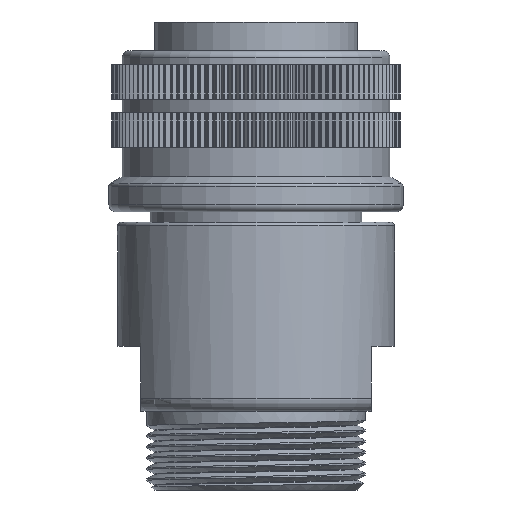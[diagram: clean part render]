
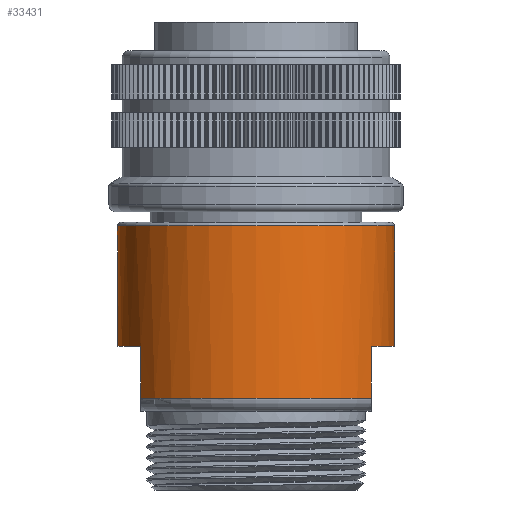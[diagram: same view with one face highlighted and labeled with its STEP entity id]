
A CAD part, front view. The second image highlights one B-rep face of the part: STEP entity #33431.
In plain terms, the highlighted cylindrical face has radius 16.05 mm (diameter 32.1 mm), a full revolution.
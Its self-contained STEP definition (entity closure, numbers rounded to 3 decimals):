
#271 = DIRECTION ( 'NONE',  ( 0., 0., 1. ) ) ;
#599 = VERTEX_POINT ( 'NONE', #22251 ) ;
#1651 = DIRECTION ( 'NONE',  ( -1., 0., 0. ) ) ;
#1714 = CARTESIAN_POINT ( 'NONE',  ( 16.05, 0., -23.62 ) ) ;
#2777 = CARTESIAN_POINT ( 'NONE',  ( 0., 16.05, -27.991 ) ) ;
#2875 = ORIENTED_EDGE ( 'NONE', *, *, #44910, .F. ) ;
#5743 = CARTESIAN_POINT ( 'NONE',  ( 13.365, 8.887, -37.59 ) ) ;
#7932 = ORIENTED_EDGE ( 'NONE', *, *, #57382, .T. ) ;
#8857 = EDGE_CURVE ( 'NONE', #71262, #90500, #52579, .T. ) ;
#9778 = CARTESIAN_POINT ( 'NONE',  ( 1.407, 15.991, -28.738 ) ) ;
#10286 = DIRECTION ( 'NONE',  ( 0., 0., -1. ) ) ;
#11931 = CIRCLE ( 'NONE', #77882, 16.05 ) ;
#12259 = DIRECTION ( 'NONE',  ( 1., 0., 0. ) ) ;
#12407 = CIRCLE ( 'NONE', #67953, 16.05 ) ;
#12469 = CIRCLE ( 'NONE', #21156, 16.05 ) ;
#14023 = CARTESIAN_POINT ( 'NONE',  ( 0., 0., -17.014 ) ) ;
#14040 = ORIENTED_EDGE ( 'NONE', *, *, #67937, .T. ) ;
#14805 = ORIENTED_EDGE ( 'NONE', *, *, #32242, .F. ) ;
#15135 = CARTESIAN_POINT ( 'NONE',  ( -13.365, 8.887, -43.59 ) ) ;
#15470 = EDGE_LOOP ( 'NONE', ( #68238, #65991 ) ) ;
#16898 = CARTESIAN_POINT ( 'NONE',  ( 0., 0., -37.59 ) ) ;
#17716 = VERTEX_POINT ( 'NONE', #46873 ) ;
#18122 = EDGE_CURVE ( 'NONE', #19188, #90500, #40227, .T. ) ;
#19188 = VERTEX_POINT ( 'NONE', #83398 ) ;
#19949 = DIRECTION ( 'NONE',  ( -1., 0., 0. ) ) ;
#20126 = CARTESIAN_POINT ( 'NONE',  ( 0., 16.05, -31.049 ) ) ;
#21156 = AXIS2_PLACEMENT_3D ( 'NONE', #68934, #26378, #19949 ) ;
#21585 = FACE_OUTER_BOUND ( 'NONE', #88414, .T. ) ;
#21671 = LINE ( 'NONE', #59120, #38176 ) ;
#22251 = CARTESIAN_POINT ( 'NONE',  ( 13.365, 8.887, -37.59 ) ) ;
#22898 = CARTESIAN_POINT ( 'NONE',  ( 13.365, -8.887, -43.59 ) ) ;
#23139 = ORIENTED_EDGE ( 'NONE', *, *, #8857, .T. ) ;
#23279 = CARTESIAN_POINT ( 'NONE',  ( 0., 16.05, -31.049 ) ) ;
#23934 = DIRECTION ( 'NONE',  ( 0., 0., -1. ) ) ;
#24145 = VERTEX_POINT ( 'NONE', #31180 ) ;
#24587 = CARTESIAN_POINT ( 'NONE',  ( 13.365, 8.887, -43.59 ) ) ;
#26378 = DIRECTION ( 'NONE',  ( 0., 0., -1. ) ) ;
#30359 = CARTESIAN_POINT ( 'NONE',  ( 1.558, 15.974, -29.943 ) ) ;
#31180 = CARTESIAN_POINT ( 'NONE',  ( -13.365, -8.887, -43.59 ) ) ;
#32242 = EDGE_CURVE ( 'NONE', #56213, #56213, #11931, .T. ) ;
#32285 = CARTESIAN_POINT ( 'NONE',  ( -13.365, -8.887, -37.59 ) ) ;
#32722 = AXIS2_PLACEMENT_3D ( 'NONE', #56489, #84687, #56791 ) ;
#33431 = ADVANCED_FACE ( 'NONE', ( #21585, #73068, #49043 ), #34811, .T. ) ;
#34622 = DIRECTION ( 'NONE',  ( 1., 0., 0. ) ) ;
#34811 = CYLINDRICAL_SURFACE ( 'NONE', #58603, 16.05 ) ;
#34870 = CARTESIAN_POINT ( 'NONE',  ( -0.43, 16.05, -31.05 ) ) ;
#35056 = VERTEX_POINT ( 'NONE', #22898 ) ;
#35787 = EDGE_CURVE ( 'NONE', #599, #17716, #12469, .T. ) ;
#35801 = ORIENTED_EDGE ( 'NONE', *, *, #58725, .F. ) ;
#38034 = CARTESIAN_POINT ( 'NONE',  ( 0.798, 16.033, -30.899 ) ) ;
#38176 = VECTOR ( 'NONE', #50895, 1000. ) ;
#38389 = DIRECTION ( 'NONE',  ( 0., 0., 1. ) ) ;
#38466 = VERTEX_POINT ( 'NONE', #65249 ) ;
#40227 = LINE ( 'NONE', #79857, #57780 ) ;
#40990 = VERTEX_POINT ( 'NONE', #32285 ) ;
#41015 = CARTESIAN_POINT ( 'NONE',  ( -1.368, 15.992, -28.753 ) ) ;
#41674 = VECTOR ( 'NONE', #70345, 1000. ) ;
#43157 = DIRECTION ( 'NONE',  ( 1., 0., 0. ) ) ;
#44361 = CARTESIAN_POINT ( 'NONE',  ( 0., 0., -23.62 ) ) ;
#44910 = EDGE_CURVE ( 'NONE', #40990, #19188, #12407, .T. ) ;
#45080 = CARTESIAN_POINT ( 'NONE',  ( 0.43, 16.05, -31.049 ) ) ;
#46873 = CARTESIAN_POINT ( 'NONE',  ( 13.365, -8.887, -37.59 ) ) ;
#48645 = CARTESIAN_POINT ( 'NONE',  ( -0.43, 16.05, -27.99 ) ) ;
#49043 = FACE_BOUND ( 'NONE', #15470, .T. ) ;
#50895 = DIRECTION ( 'NONE',  ( 0., 0., -1. ) ) ;
#51898 = DIRECTION ( 'NONE',  ( 0., 0., -1. ) ) ;
#52434 = CARTESIAN_POINT ( 'NONE',  ( 1.559, 15.974, -29.099 ) ) ;
#52579 = CIRCLE ( 'NONE', #70359, 16.05 ) ;
#55798 = EDGE_CURVE ( 'NONE', #56257, #38466, #63210, .T. ) ;
#55984 = CARTESIAN_POINT ( 'NONE',  ( -1.558, 15.974, -29.31 ) ) ;
#56213 = VERTEX_POINT ( 'NONE', #1714 ) ;
#56257 = VERTEX_POINT ( 'NONE', #89312 ) ;
#56489 = CARTESIAN_POINT ( 'NONE',  ( 0., 0., -43.59 ) ) ;
#56791 = DIRECTION ( 'NONE',  ( 1., 0., 0. ) ) ;
#57382 = EDGE_CURVE ( 'NONE', #599, #71262, #60285, .T. ) ;
#57780 = VECTOR ( 'NONE', #10286, 1000. ) ;
#58317 = CARTESIAN_POINT ( 'NONE',  ( -13.365, -8.887, -37.59 ) ) ;
#58603 = AXIS2_PLACEMENT_3D ( 'NONE', #14023, #271, #34622 ) ;
#58725 = EDGE_CURVE ( 'NONE', #17716, #35056, #21671, .T. ) ;
#59120 = CARTESIAN_POINT ( 'NONE',  ( 13.365, -8.887, -37.59 ) ) ;
#60285 = LINE ( 'NONE', #5743, #41674 ) ;
#61821 = VECTOR ( 'NONE', #51898, 1000. ) ;
#62104 = CARTESIAN_POINT ( 'NONE',  ( -1.255, 16.002, -28.588 ) ) ;
#63210 = B_SPLINE_CURVE_WITH_KNOTS ( 'NONE', 3,
 ( #83563, #48645, #90922, #62104, #41015, #69110, #55984, #76494, #83277, #82976, #34870, #20126 ),
 .UNSPECIFIED., .F., .F.,
 ( 4, 2, 2, 2, 2, 4 ),
 ( 0., 0.25, 0.375, 0.5, 0.75, 1. ),
 .UNSPECIFIED. ) ;
#63257 = B_SPLINE_CURVE_WITH_KNOTS ( 'NONE', 3,
 ( #23279, #45080, #38034, #72298, #30359, #52434, #9778, #66155, #65835, #2777 ),
 .UNSPECIFIED., .F., .F.,
 ( 4, 2, 2, 2, 4 ),
 ( 0., 0.25, 0.5, 0.75, 1. ),
 .UNSPECIFIED. ) ;
#64094 = ORIENTED_EDGE ( 'NONE', *, *, #82775, .T. ) ;
#64227 = ORIENTED_EDGE ( 'NONE', *, *, #18122, .F. ) ;
#65249 = CARTESIAN_POINT ( 'NONE',  ( 0., 16.05, -31.049 ) ) ;
#65411 = DIRECTION ( 'NONE',  ( 0., 0., 1. ) ) ;
#65835 = CARTESIAN_POINT ( 'NONE',  ( 0.431, 16.05, -27.991 ) ) ;
#65991 = ORIENTED_EDGE ( 'NONE', *, *, #55798, .T. ) ;
#66155 = CARTESIAN_POINT ( 'NONE',  ( 0.798, 16.033, -28.14 ) ) ;
#67937 = EDGE_CURVE ( 'NONE', #24145, #35056, #73846, .T. ) ;
#67953 = AXIS2_PLACEMENT_3D ( 'NONE', #16898, #23934, #1651 ) ;
#68238 = ORIENTED_EDGE ( 'NONE', *, *, #75135, .T. ) ;
#68934 = CARTESIAN_POINT ( 'NONE',  ( 0., 0., -37.59 ) ) ;
#69110 = CARTESIAN_POINT ( 'NONE',  ( -1.52, 15.978, -29.113 ) ) ;
#70345 = DIRECTION ( 'NONE',  ( 0., 0., -1. ) ) ;
#70359 = AXIS2_PLACEMENT_3D ( 'NONE', #80292, #38389, #12259 ) ;
#71262 = VERTEX_POINT ( 'NONE', #24587 ) ;
#72298 = CARTESIAN_POINT ( 'NONE',  ( 1.406, 15.991, -30.304 ) ) ;
#73068 = FACE_OUTER_BOUND ( 'NONE', #79695, .T. ) ;
#73846 = CIRCLE ( 'NONE', #32722, 16.05 ) ;
#75135 = EDGE_CURVE ( 'NONE', #38466, #56257, #63257, .T. ) ;
#76494 = CARTESIAN_POINT ( 'NONE',  ( -1.559, 15.974, -29.942 ) ) ;
#77882 = AXIS2_PLACEMENT_3D ( 'NONE', #44361, #65411, #43157 ) ;
#79695 = EDGE_LOOP ( 'NONE', ( #14805 ) ) ;
#79857 = CARTESIAN_POINT ( 'NONE',  ( -13.365, 8.887, -37.59 ) ) ;
#80292 = CARTESIAN_POINT ( 'NONE',  ( 0., 0., -43.59 ) ) ;
#80428 = ORIENTED_EDGE ( 'NONE', *, *, #35787, .F. ) ;
#82775 = EDGE_CURVE ( 'NONE', #40990, #24145, #84905, .T. ) ;
#82976 = CARTESIAN_POINT ( 'NONE',  ( -0.798, 16.033, -30.9 ) ) ;
#83277 = CARTESIAN_POINT ( 'NONE',  ( -1.407, 15.991, -30.303 ) ) ;
#83398 = CARTESIAN_POINT ( 'NONE',  ( -13.365, 8.887, -37.59 ) ) ;
#83563 = CARTESIAN_POINT ( 'NONE',  ( 0., 16.05, -27.991 ) ) ;
#84687 = DIRECTION ( 'NONE',  ( 0., 0., 1. ) ) ;
#84905 = LINE ( 'NONE', #58317, #61821 ) ;
#88414 = EDGE_LOOP ( 'NONE', ( #64227, #2875, #64094, #14040, #35801, #80428, #7932, #23139 ) ) ;
#89312 = CARTESIAN_POINT ( 'NONE',  ( 0., 16.05, -27.991 ) ) ;
#90500 = VERTEX_POINT ( 'NONE', #15135 ) ;
#90922 = CARTESIAN_POINT ( 'NONE',  ( -0.799, 16.033, -28.141 ) ) ;
